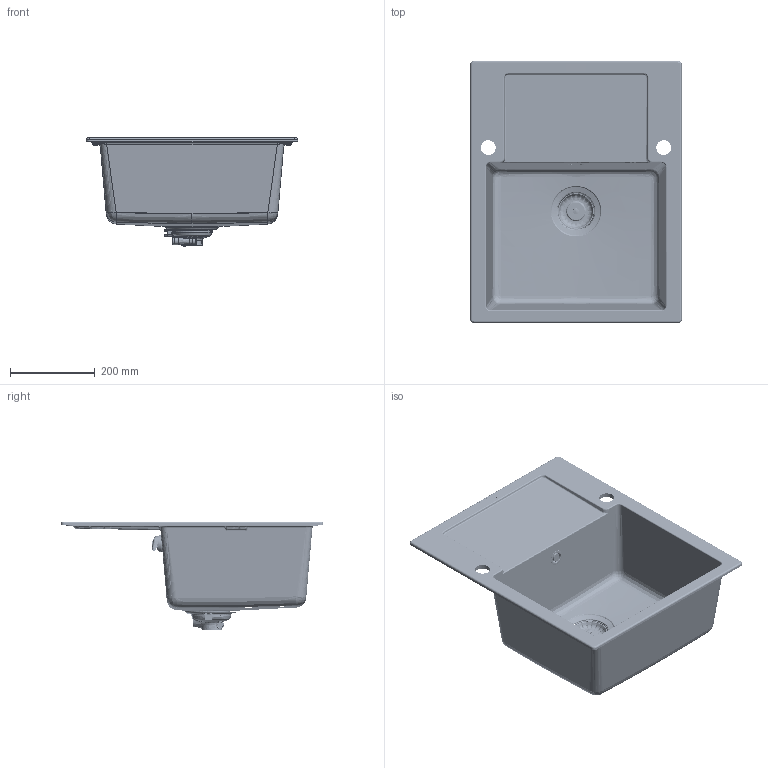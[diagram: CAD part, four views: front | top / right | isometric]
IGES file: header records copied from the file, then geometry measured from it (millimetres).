
Global section: file name: F:\_CONVERSIONE_CAD_2024_2025\_2024\03_3D kits new\Sinks\MARIS\114.0706.769 3D001_Sinks_Maris_MRG-611-62___NO REVIT\3D001_Sinks_Maris_MRG-611-62.igs; native system: Rhinoceros ( Jun 11 2024 ); preprocessor: Trout Lake IGES 012 Jun 11 2024; date: 240730.140425; units: millimetre
Bounding box: 500 x 620 x 255.9 mm (x, y, z)
Surface area: 1204672.7 mm2 (no closed solid volume)
Topology: 0 solids, 0 shells, 3624 faces, 24195 edges, 23980 vertices
Faces by surface type: bspline 3624
